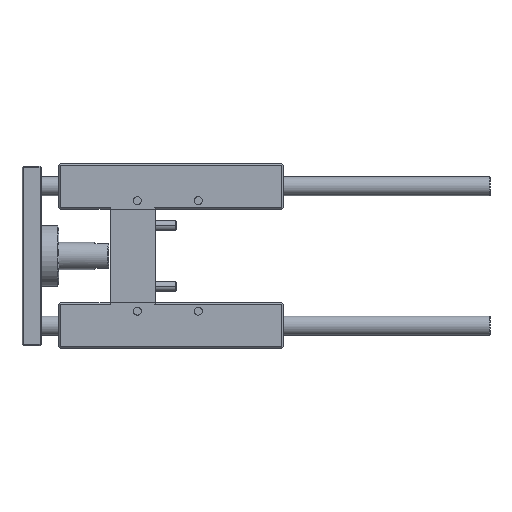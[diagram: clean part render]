
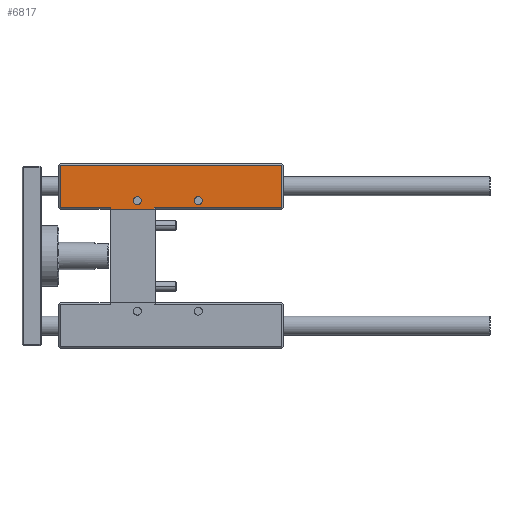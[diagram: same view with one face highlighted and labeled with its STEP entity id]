
A CAD part, top view. The second image highlights one B-rep face of the part: STEP entity #6817.
In plain terms, the highlighted planar face has unit normal (0, 0, 1).
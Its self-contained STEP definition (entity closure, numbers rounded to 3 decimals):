
#152 = CARTESIAN_POINT ( 'NONE',  ( 87.072, -57.269, 165.426 ) ) ;
#246 = EDGE_CURVE ( 'NONE', #16356, #13579, #17265, .T. ) ;
#729 = DIRECTION ( 'NONE',  ( 0., 0., 1. ) ) ;
#1645 = DIRECTION ( 'NONE',  ( 0., 1., 0. ) ) ;
#1692 = LINE ( 'NONE', #4406, #18373 ) ;
#2043 = VECTOR ( 'NONE', #17360, 1000. ) ;
#2064 = EDGE_LOOP ( 'NONE', ( #24124, #6154 ) ) ;
#2293 = VERTEX_POINT ( 'NONE', #27644 ) ;
#2781 = CIRCLE ( 'NONE', #7843, 2.459 ) ;
#3179 = AXIS2_PLACEMENT_3D ( 'NONE', #3899, #10474, #17266 ) ;
#3318 = EDGE_CURVE ( 'NONE', #8888, #20614, #1692, .T. ) ;
#3579 = DIRECTION ( 'NONE',  ( 1., 0., 0. ) ) ;
#3899 = CARTESIAN_POINT ( 'NONE',  ( 49.072, -57.269, 165.426 ) ) ;
#4406 = CARTESIAN_POINT ( 'NONE',  ( 0.072, -35.269, 165.426 ) ) ;
#4505 = DIRECTION ( 'NONE',  ( 0., -1., 0. ) ) ;
#4699 = DIRECTION ( 'NONE',  ( 0., 0., -1. ) ) ;
#5105 = CARTESIAN_POINT ( 'NONE',  ( 1.072, -149.269, 165.426 ) ) ;
#5375 = CARTESIAN_POINT ( 'NONE',  ( 51.531, -57.269, 165.426 ) ) ;
#5590 = VECTOR ( 'NONE', #7071, 1000. ) ;
#5807 = EDGE_CURVE ( 'NONE', #20614, #9315, #20607, .T. ) ;
#6154 = ORIENTED_EDGE ( 'NONE', *, *, #246, .T. ) ;
#6215 = VERTEX_POINT ( 'NONE', #14874 ) ;
#6580 = DIRECTION ( 'NONE',  ( -1., 0., 0. ) ) ;
#6749 = LINE ( 'NONE', #27990, #23865 ) ;
#6817 = ADVANCED_FACE ( 'NONE', ( #13020, #23948, #18084 ), #11493, .T. ) ;
#6898 = ORIENTED_EDGE ( 'NONE', *, *, #18298, .T. ) ;
#7071 = DIRECTION ( 'NONE',  ( 0., -1., 0. ) ) ;
#7321 = EDGE_CURVE ( 'NONE', #14714, #2293, #27955, .T. ) ;
#7514 = CIRCLE ( 'NONE', #22245, 2.459 ) ;
#7544 = CARTESIAN_POINT ( 'NONE',  ( 139.072, -35.269, 165.426 ) ) ;
#7673 = VECTOR ( 'NONE', #3579, 1000. ) ;
#7703 = CARTESIAN_POINT ( 'NONE',  ( 46.613, -57.269, 165.426 ) ) ;
#7843 = AXIS2_PLACEMENT_3D ( 'NONE', #19688, #26337, #22314 ) ;
#8124 = CARTESIAN_POINT ( 'NONE',  ( 0.072, -62.669, 165.426 ) ) ;
#8152 = ORIENTED_EDGE ( 'NONE', *, *, #15114, .T. ) ;
#8535 = CARTESIAN_POINT ( 'NONE',  ( 89.531, -57.269, 165.426 ) ) ;
#8639 = CARTESIAN_POINT ( 'NONE',  ( 0.072, -61.669, 165.426 ) ) ;
#8888 = VERTEX_POINT ( 'NONE', #7544 ) ;
#8977 = EDGE_CURVE ( 'NONE', #28134, #8888, #6749, .T. ) ;
#9045 = DIRECTION ( 'NONE',  ( 1., 0., 0. ) ) ;
#9315 = VERTEX_POINT ( 'NONE', #23640 ) ;
#9836 = ORIENTED_EDGE ( 'NONE', *, *, #7321, .F. ) ;
#10176 = CARTESIAN_POINT ( 'NONE',  ( 32.572, -62.669, 165.426 ) ) ;
#10474 = DIRECTION ( 'NONE',  ( 0., 0., -1. ) ) ;
#10618 = VECTOR ( 'NONE', #9045, 1000. ) ;
#11493 = PLANE ( 'NONE',  #22932 ) ;
#11785 = CIRCLE ( 'NONE', #17050, 2.459 ) ;
#12273 = EDGE_CURVE ( 'NONE', #14714, #28134, #22202, .T. ) ;
#12397 = ORIENTED_EDGE ( 'NONE', *, *, #23350, .T. ) ;
#13020 = FACE_BOUND ( 'NONE', #27520, .T. ) ;
#13049 = DIRECTION ( 'NONE',  ( 0., 1., 0. ) ) ;
#13558 = DIRECTION ( 'NONE',  ( 0., 0., -1. ) ) ;
#13579 = VERTEX_POINT ( 'NONE', #7703 ) ;
#13838 = ORIENTED_EDGE ( 'NONE', *, *, #12273, .T. ) ;
#14714 = VERTEX_POINT ( 'NONE', #18294 ) ;
#14874 = CARTESIAN_POINT ( 'NONE',  ( 32.572, -61.669, 165.426 ) ) ;
#15114 = EDGE_CURVE ( 'NONE', #18659, #24496, #11785, .T. ) ;
#15346 = DIRECTION ( 'NONE',  ( -1., 0., 0. ) ) ;
#15567 = CARTESIAN_POINT ( 'NONE',  ( 84.613, -57.269, 165.426 ) ) ;
#15618 = VECTOR ( 'NONE', #4505, 1000. ) ;
#15666 = EDGE_LOOP ( 'NONE', ( #6898, #27735, #12397, #9836, #13838, #26237, #20585, #21702 ) ) ;
#15841 = VERTEX_POINT ( 'NONE', #10176 ) ;
#16004 = ORIENTED_EDGE ( 'NONE', *, *, #20966, .T. ) ;
#16356 = VERTEX_POINT ( 'NONE', #5375 ) ;
#16392 = LINE ( 'NONE', #22118, #10618 ) ;
#17050 = AXIS2_PLACEMENT_3D ( 'NONE', #152, #4699, #15346 ) ;
#17265 = CIRCLE ( 'NONE', #3179, 2.459 ) ;
#17266 = DIRECTION ( 'NONE',  ( -1., 0., 0. ) ) ;
#17360 = DIRECTION ( 'NONE',  ( 1., 0., 0. ) ) ;
#18041 = EDGE_CURVE ( 'NONE', #15841, #6215, #26059, .T. ) ;
#18084 = FACE_OUTER_BOUND ( 'NONE', #15666, .T. ) ;
#18294 = CARTESIAN_POINT ( 'NONE',  ( 59.572, -61.669, 165.426 ) ) ;
#18298 = EDGE_CURVE ( 'NONE', #9315, #6215, #16392, .T. ) ;
#18373 = VECTOR ( 'NONE', #6580, 1000. ) ;
#18659 = VERTEX_POINT ( 'NONE', #15567 ) ;
#18869 = CARTESIAN_POINT ( 'NONE',  ( 1.072, -35.269, 165.426 ) ) ;
#19688 = CARTESIAN_POINT ( 'NONE',  ( 49.072, -57.269, 165.426 ) ) ;
#20585 = ORIENTED_EDGE ( 'NONE', *, *, #3318, .T. ) ;
#20607 = LINE ( 'NONE', #5105, #5590 ) ;
#20614 = VERTEX_POINT ( 'NONE', #18869 ) ;
#20966 = EDGE_CURVE ( 'NONE', #24496, #18659, #7514, .T. ) ;
#21325 = LINE ( 'NONE', #8124, #7673 ) ;
#21702 = ORIENTED_EDGE ( 'NONE', *, *, #5807, .T. ) ;
#21953 = CARTESIAN_POINT ( 'NONE',  ( 59.572, -135.069, 165.426 ) ) ;
#22118 = CARTESIAN_POINT ( 'NONE',  ( 0.072, -61.669, 165.426 ) ) ;
#22202 = LINE ( 'NONE', #8639, #2043 ) ;
#22245 = AXIS2_PLACEMENT_3D ( 'NONE', #24709, #13558, #26460 ) ;
#22314 = DIRECTION ( 'NONE',  ( -1., 0., 0. ) ) ;
#22932 = AXIS2_PLACEMENT_3D ( 'NONE', #24639, #729, #26776 ) ;
#23024 = CARTESIAN_POINT ( 'NONE',  ( 139.072, -61.669, 165.426 ) ) ;
#23350 = EDGE_CURVE ( 'NONE', #15841, #2293, #21325, .T. ) ;
#23640 = CARTESIAN_POINT ( 'NONE',  ( 1.072, -61.669, 165.426 ) ) ;
#23865 = VECTOR ( 'NONE', #1645, 1000. ) ;
#23935 = CARTESIAN_POINT ( 'NONE',  ( 32.572, -105.969, 165.426 ) ) ;
#23948 = FACE_BOUND ( 'NONE', #2064, .T. ) ;
#24124 = ORIENTED_EDGE ( 'NONE', *, *, #26121, .T. ) ;
#24496 = VERTEX_POINT ( 'NONE', #8535 ) ;
#24639 = CARTESIAN_POINT ( 'NONE',  ( 0.072, -149.269, 165.426 ) ) ;
#24709 = CARTESIAN_POINT ( 'NONE',  ( 87.072, -57.269, 165.426 ) ) ;
#26059 = LINE ( 'NONE', #23935, #28121 ) ;
#26121 = EDGE_CURVE ( 'NONE', #13579, #16356, #2781, .T. ) ;
#26237 = ORIENTED_EDGE ( 'NONE', *, *, #8977, .T. ) ;
#26337 = DIRECTION ( 'NONE',  ( 0., 0., -1. ) ) ;
#26460 = DIRECTION ( 'NONE',  ( -1., 0., 0. ) ) ;
#26776 = DIRECTION ( 'NONE',  ( 1., 0., 0. ) ) ;
#27520 = EDGE_LOOP ( 'NONE', ( #8152, #16004 ) ) ;
#27644 = CARTESIAN_POINT ( 'NONE',  ( 59.572, -62.669, 165.426 ) ) ;
#27735 = ORIENTED_EDGE ( 'NONE', *, *, #18041, .F. ) ;
#27955 = LINE ( 'NONE', #21953, #15618 ) ;
#27990 = CARTESIAN_POINT ( 'NONE',  ( 139.072, -149.269, 165.426 ) ) ;
#28121 = VECTOR ( 'NONE', #13049, 1000. ) ;
#28134 = VERTEX_POINT ( 'NONE', #23024 ) ;
